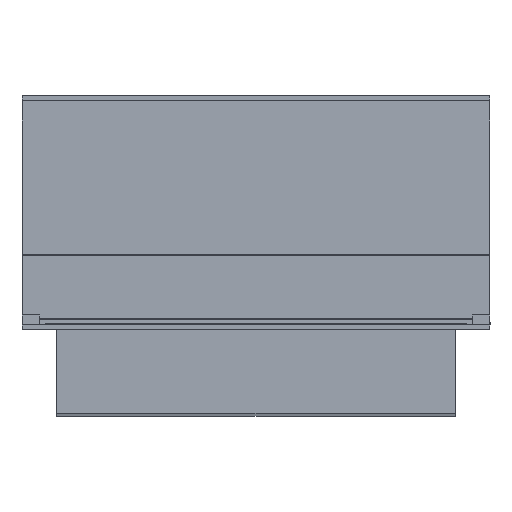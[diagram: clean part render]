
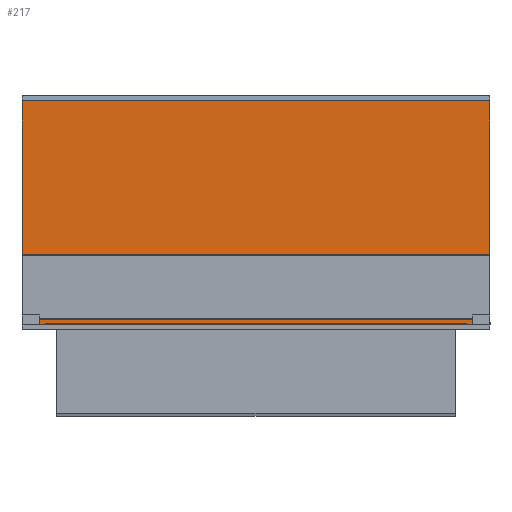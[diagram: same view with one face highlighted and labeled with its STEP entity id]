
A CAD part, top view. The second image highlights one B-rep face of the part: STEP entity #217.
In plain terms, the highlighted planar face has unit normal (0, 0, 1).
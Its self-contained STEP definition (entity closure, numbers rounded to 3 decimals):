
#152 = CARTESIAN_POINT ( 'NONE',  ( 6.385, -203.917, -296.501 ) ) ;
#195 = DIRECTION ( 'NONE',  ( 0., 1., 0. ) ) ;
#217 = ADVANCED_FACE ( 'NONE', ( #2453 ), #3946, .T. ) ;
#403 = ORIENTED_EDGE ( 'NONE', *, *, #566, .T. ) ;
#472 = CARTESIAN_POINT ( 'NONE',  ( 6.385, 196.083, -296.501 ) ) ;
#566 = EDGE_CURVE ( 'NONE', #1508, #2067, #3889, .T. ) ;
#621 = LINE ( 'NONE', #4061, #3323 ) ;
#764 = EDGE_CURVE ( 'NONE', #4051, #1508, #1454, .T. ) ;
#861 = CARTESIAN_POINT ( 'NONE',  ( -793.615, -203.917, -296.501 ) ) ;
#880 = LINE ( 'NONE', #3858, #2928 ) ;
#918 = CARTESIAN_POINT ( 'NONE',  ( -793.615, -203.917, -296.501 ) ) ;
#1109 = ORIENTED_EDGE ( 'NONE', *, *, #2455, .T. ) ;
#1454 = LINE ( 'NONE', #2909, #3936 ) ;
#1508 = VERTEX_POINT ( 'NONE', #152 ) ;
#1648 = AXIS2_PLACEMENT_3D ( 'NONE', #918, #1756, #2508 ) ;
#1660 = ORIENTED_EDGE ( 'NONE', *, *, #3305, .T. ) ;
#1756 = DIRECTION ( 'NONE',  ( 0., 0., 1. ) ) ;
#2067 = VERTEX_POINT ( 'NONE', #472 ) ;
#2397 = CARTESIAN_POINT ( 'NONE',  ( -793.615, 196.083, -296.501 ) ) ;
#2453 = FACE_OUTER_BOUND ( 'NONE', #4297, .T. ) ;
#2455 = EDGE_CURVE ( 'NONE', #3137, #4051, #880, .T. ) ;
#2508 = DIRECTION ( 'NONE',  ( 1., 0., 0. ) ) ;
#2640 = ORIENTED_EDGE ( 'NONE', *, *, #764, .T. ) ;
#2909 = CARTESIAN_POINT ( 'NONE',  ( -793.615, -203.917, -296.501 ) ) ;
#2928 = VECTOR ( 'NONE', #4584, 1000. ) ;
#3137 = VERTEX_POINT ( 'NONE', #2397 ) ;
#3255 = DIRECTION ( 'NONE',  ( 1., 0., 0. ) ) ;
#3275 = VECTOR ( 'NONE', #195, 1000. ) ;
#3305 = EDGE_CURVE ( 'NONE', #2067, #3137, #621, .T. ) ;
#3323 = VECTOR ( 'NONE', #4848, 1000. ) ;
#3552 = CARTESIAN_POINT ( 'NONE',  ( 6.385, 196.083, -296.501 ) ) ;
#3858 = CARTESIAN_POINT ( 'NONE',  ( -793.615, 196.083, -296.501 ) ) ;
#3889 = LINE ( 'NONE', #3552, #3275 ) ;
#3936 = VECTOR ( 'NONE', #3255, 1000. ) ;
#3946 = PLANE ( 'NONE',  #1648 ) ;
#4051 = VERTEX_POINT ( 'NONE', #861 ) ;
#4061 = CARTESIAN_POINT ( 'NONE',  ( -793.615, 196.083, -296.501 ) ) ;
#4297 = EDGE_LOOP ( 'NONE', ( #1109, #2640, #403, #1660 ) ) ;
#4584 = DIRECTION ( 'NONE',  ( 0., -1., 0. ) ) ;
#4848 = DIRECTION ( 'NONE',  ( -1., 0., 0. ) ) ;
